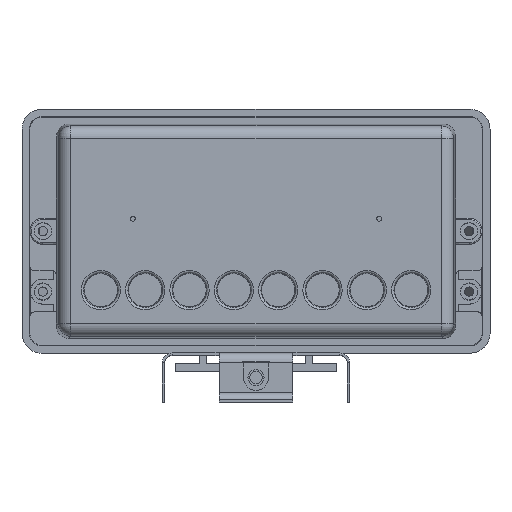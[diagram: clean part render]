
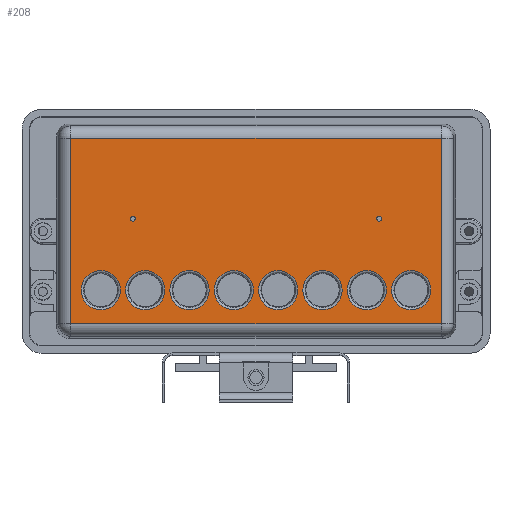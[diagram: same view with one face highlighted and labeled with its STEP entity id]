
A CAD part, top view. The second image highlights one B-rep face of the part: STEP entity #208.
In plain terms, the highlighted planar face has unit normal (0, 0, 1).
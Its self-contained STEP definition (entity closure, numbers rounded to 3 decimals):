
#208=ADVANCED_FACE('',(#3000,#3002,#3004,#3006,#3008,#3010,#3012,#3014,#3016,#3018,
#3020),#3022,.T.);
#3000=FACE_BOUND('',#3001,.T.);
#3001=EDGE_LOOP('',(#12802));
#3002=FACE_BOUND('',#3003,.T.);
#3003=EDGE_LOOP('',(#12803));
#3004=FACE_BOUND('',#3005,.T.);
#3005=EDGE_LOOP('',(#12804));
#3006=FACE_BOUND('',#3007,.T.);
#3007=EDGE_LOOP('',(#12805));
#3008=FACE_BOUND('',#3009,.T.);
#3009=EDGE_LOOP('',(#12806));
#3010=FACE_BOUND('',#3011,.T.);
#3011=EDGE_LOOP('',(#12807));
#3012=FACE_BOUND('',#3013,.T.);
#3013=EDGE_LOOP('',(#12808));
#3014=FACE_BOUND('',#3015,.T.);
#3015=EDGE_LOOP('',(#12809));
#3016=FACE_BOUND('',#3017,.T.);
#3017=EDGE_LOOP('',(#12810));
#3018=FACE_BOUND('',#3019,.T.);
#3019=EDGE_LOOP('',(#12811));
#3020=FACE_OUTER_BOUND('',#3021,.T.);
#3021=EDGE_LOOP('',(#12812,#12813,#12814,#12815));
#3022=PLANE('',#3023);
#3023=AXIS2_PLACEMENT_3D('',#3024,#3025,#3026);
#3024=CARTESIAN_POINT('',(59.5,-25.73,200.));
#3025=DIRECTION('',(0.,0.,1.));
#3026=DIRECTION('',(1.,0.,0.));
#12802=ORIENTED_EDGE('',*,*,#17048,.T.);
#12803=ORIENTED_EDGE('',*,*,#17046,.T.);
#12804=ORIENTED_EDGE('',*,*,#17044,.T.);
#12805=ORIENTED_EDGE('',*,*,#17030,.T.);
#12806=ORIENTED_EDGE('',*,*,#17032,.T.);
#12807=ORIENTED_EDGE('',*,*,#17042,.T.);
#12808=ORIENTED_EDGE('',*,*,#17034,.T.);
#12809=ORIENTED_EDGE('',*,*,#17040,.T.);
#12810=ORIENTED_EDGE('',*,*,#17036,.T.);
#12811=ORIENTED_EDGE('',*,*,#17038,.T.);
#12812=ORIENTED_EDGE('',*,*,#17065,.T.);
#12813=ORIENTED_EDGE('',*,*,#17066,.T.);
#12814=ORIENTED_EDGE('',*,*,#17067,.T.);
#12815=ORIENTED_EDGE('',*,*,#17068,.T.);
#17030=EDGE_CURVE('',#19439,#19439,#19441,.T.);
#17032=EDGE_CURVE('',#19442,#19442,#19444,.T.);
#17034=EDGE_CURVE('',#19445,#19445,#19447,.T.);
#17036=EDGE_CURVE('',#19448,#19448,#19450,.T.);
#17038=EDGE_CURVE('',#19451,#19451,#19453,.T.);
#17040=EDGE_CURVE('',#19454,#19454,#19456,.T.);
#17042=EDGE_CURVE('',#19457,#19457,#19459,.T.);
#17044=EDGE_CURVE('',#19460,#19460,#19462,.T.);
#17046=EDGE_CURVE('',#19463,#19463,#19465,.T.);
#17048=EDGE_CURVE('',#19466,#19466,#19468,.T.);
#17065=EDGE_CURVE('',#19493,#19494,#19495,.T.);
#17066=EDGE_CURVE('',#19494,#19496,#19497,.T.);
#17067=EDGE_CURVE('',#19496,#19498,#19499,.T.);
#17068=EDGE_CURVE('',#19498,#19493,#19500,.T.);
#19439=VERTEX_POINT('',#25519);
#19441=CIRCLE('',#25524,7.983);
#19442=VERTEX_POINT('',#25528);
#19444=CIRCLE('',#25533,7.983);
#19445=VERTEX_POINT('',#25537);
#19447=CIRCLE('',#25542,7.983);
#19448=VERTEX_POINT('',#25546);
#19450=CIRCLE('',#25551,7.983);
#19451=VERTEX_POINT('',#25555);
#19453=CIRCLE('',#25560,7.983);
#19454=VERTEX_POINT('',#25564);
#19456=CIRCLE('',#25569,7.983);
#19457=VERTEX_POINT('',#25573);
#19459=CIRCLE('',#25578,7.983);
#19460=VERTEX_POINT('',#25582);
#19462=CIRCLE('',#25587,7.983);
#19463=VERTEX_POINT('',#25591);
#19465=CIRCLE('',#25595,1.);
#19466=VERTEX_POINT('',#25599);
#19468=CIRCLE('',#25603,1.);
#19493=VERTEX_POINT('',#26249);
#19494=VERTEX_POINT('',#26250);
#19495=LINE('',#26251,#26252);
#19496=VERTEX_POINT('',#26254);
#19497=LINE('',#26255,#26256);
#19498=VERTEX_POINT('',#26258);
#19499=LINE('',#26259,#26260);
#19500=LINE('',#26262,#26263);
#25519=CARTESIAN_POINT('',(-70.983,-24.,200.));
#25524=AXIS2_PLACEMENT_3D('',#25525,#25526,#25527);
#25525=CARTESIAN_POINT('',(-63.,-24.,200.));
#25526=DIRECTION('',(-0.,-0.,-1.));
#25527=DIRECTION('',(-1.,0.,0.));
#25528=CARTESIAN_POINT('',(-34.983,-24.,200.));
#25533=AXIS2_PLACEMENT_3D('',#25534,#25535,#25536);
#25534=CARTESIAN_POINT('',(-27.,-24.,200.));
#25535=DIRECTION('',(-0.,-0.,-1.));
#25536=DIRECTION('',(-1.,0.,0.));
#25537=CARTESIAN_POINT('',(1.017,-24.,200.));
#25542=AXIS2_PLACEMENT_3D('',#25543,#25544,#25545);
#25543=CARTESIAN_POINT('',(9.,-24.,200.));
#25544=DIRECTION('',(-0.,-0.,-1.));
#25545=DIRECTION('',(-1.,0.,0.));
#25546=CARTESIAN_POINT('',(37.017,-24.,200.));
#25551=AXIS2_PLACEMENT_3D('',#25552,#25553,#25554);
#25552=CARTESIAN_POINT('',(45.,-24.,200.));
#25553=DIRECTION('',(-0.,-0.,-1.));
#25554=DIRECTION('',(-1.,0.,0.));
#25555=CARTESIAN_POINT('',(55.017,-24.,200.));
#25560=AXIS2_PLACEMENT_3D('',#25561,#25562,#25563);
#25561=CARTESIAN_POINT('',(63.,-24.,200.));
#25562=DIRECTION('',(-0.,-0.,-1.));
#25563=DIRECTION('',(-1.,0.,0.));
#25564=CARTESIAN_POINT('',(19.017,-24.,200.));
#25569=AXIS2_PLACEMENT_3D('',#25570,#25571,#25572);
#25570=CARTESIAN_POINT('',(27.,-24.,200.));
#25571=DIRECTION('',(-0.,-0.,-1.));
#25572=DIRECTION('',(-1.,0.,0.));
#25573=CARTESIAN_POINT('',(-16.983,-24.,200.));
#25578=AXIS2_PLACEMENT_3D('',#25579,#25580,#25581);
#25579=CARTESIAN_POINT('',(-9.,-24.,200.));
#25580=DIRECTION('',(-0.,-0.,-1.));
#25581=DIRECTION('',(-1.,0.,0.));
#25582=CARTESIAN_POINT('',(-52.983,-24.,200.));
#25587=AXIS2_PLACEMENT_3D('',#25588,#25589,#25590);
#25588=CARTESIAN_POINT('',(-45.,-24.,200.));
#25589=DIRECTION('',(-0.,-0.,-1.));
#25590=DIRECTION('',(-1.,0.,0.));
#25591=CARTESIAN_POINT('',(49.,5.,200.));
#25595=AXIS2_PLACEMENT_3D('',#25596,#25597,#25598);
#25596=CARTESIAN_POINT('',(50.,5.,200.));
#25597=DIRECTION('',(-0.,-0.,-1.));
#25598=DIRECTION('',(-1.,0.,0.));
#25599=CARTESIAN_POINT('',(-51.,5.,200.));
#25603=AXIS2_PLACEMENT_3D('',#25604,#25605,#25606);
#25604=CARTESIAN_POINT('',(-50.,5.,200.));
#25605=DIRECTION('',(-0.,-0.,-1.));
#25606=DIRECTION('',(-1.,0.,0.));
#26249=CARTESIAN_POINT('',(75.198,37.694,200.));
#26250=CARTESIAN_POINT('',(-75.198,37.694,200.));
#26251=CARTESIAN_POINT('',(75.198,37.694,200.));
#26252=VECTOR('',#26253,1.);
#26253=DIRECTION('',(-1.,0.,0.));
#26254=CARTESIAN_POINT('',(-75.198,-37.694,200.));
#26255=CARTESIAN_POINT('',(-75.198,37.694,200.));
#26256=VECTOR('',#26257,1.);
#26257=DIRECTION('',(0.,-1.,0.));
#26258=CARTESIAN_POINT('',(75.198,-37.694,200.));
#26259=CARTESIAN_POINT('',(-75.198,-37.694,200.));
#26260=VECTOR('',#26261,1.);
#26261=DIRECTION('',(1.,0.,0.));
#26262=CARTESIAN_POINT('',(75.198,-37.694,200.));
#26263=VECTOR('',#26264,1.);
#26264=DIRECTION('',(0.,1.,0.));
